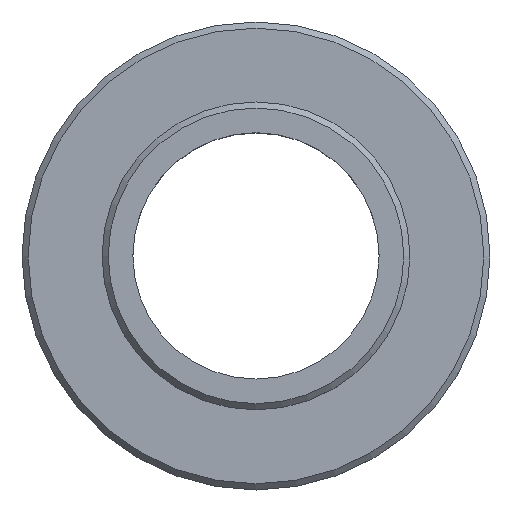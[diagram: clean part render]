
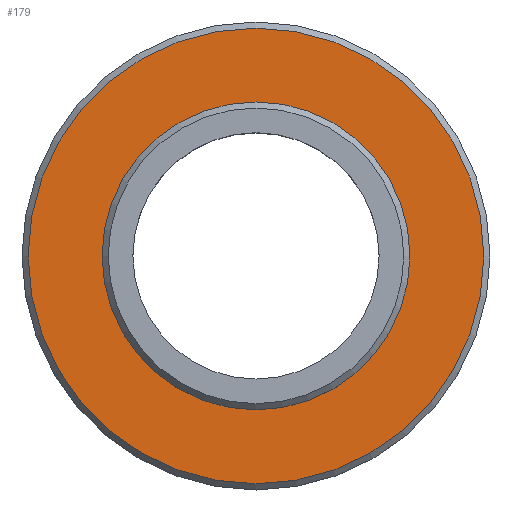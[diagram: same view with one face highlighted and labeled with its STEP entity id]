
A CAD part, top view. The second image highlights one B-rep face of the part: STEP entity #179.
In plain terms, the highlighted planar face has unit normal (0, 0, 1).
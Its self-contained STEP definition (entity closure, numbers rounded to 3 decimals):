
#117=CARTESIAN_POINT('',(18.5,0.,10.0));
#118=VERTEX_POINT('',#117);
#119=CARTESIAN_POINT('',(0.0,0.0,10.0));
#120=DIRECTION('',(0.0,0.0,-1.0));
#121=DIRECTION('',(-1.0,0.0,0.0));
#122=AXIS2_PLACEMENT_3D('',#119,#120,#121);
#123=CIRCLE('',#122,18.5);
#124=EDGE_CURVE('',#118,#118,#123,.T.);
#160=CARTESIAN_POINT('',(0.0,0.0,10.0));
#161=DIRECTION('',(0.0,0.0,-1.0));
#162=DIRECTION('',(-1.0,0.0,0.0));
#163=AXIS2_PLACEMENT_3D('',#160,#161,#162);
#164=PLANE('',#163);
#165=ORIENTED_EDGE('',*,*,#124,.F.);
#166=EDGE_LOOP('',(#165));
#167=FACE_OUTER_BOUND('',#166,.T.);
#168=CARTESIAN_POINT('',(12.0,0.,10.0));
#169=VERTEX_POINT('',#168);
#170=CARTESIAN_POINT('',(0.0,0.0,10.0));
#171=DIRECTION('',(0.0,0.0,1.0));
#172=DIRECTION('',(-1.0,0.0,0.0));
#173=AXIS2_PLACEMENT_3D('',#170,#171,#172);
#174=CIRCLE('',#173,12.0);
#175=EDGE_CURVE('',#169,#169,#174,.T.);
#176=ORIENTED_EDGE('',*,*,#175,.F.);
#177=EDGE_LOOP('',(#176));
#178=FACE_BOUND('',#177,.T.);
#179=ADVANCED_FACE('',(#167,#178),#164,.F.);
